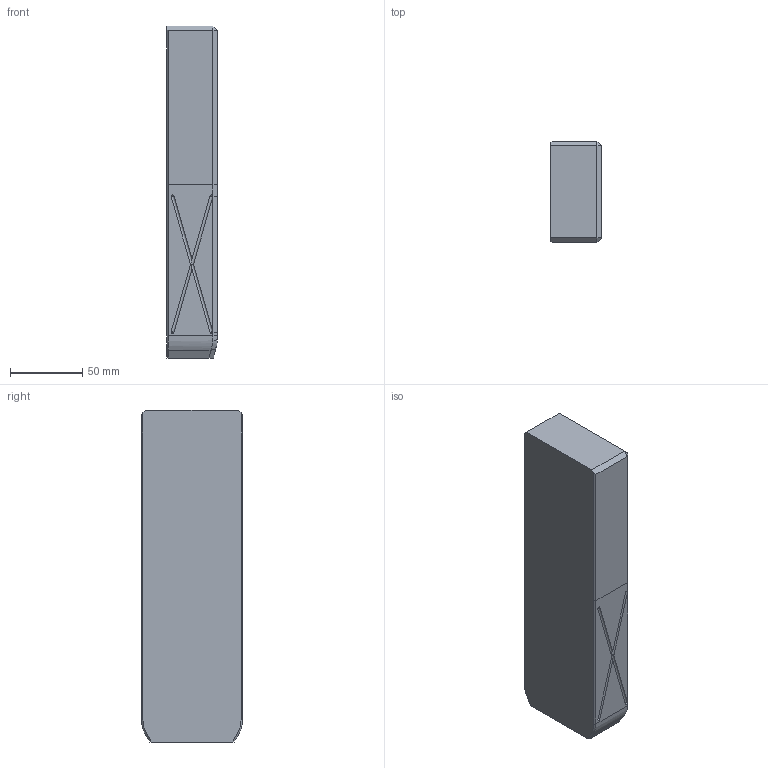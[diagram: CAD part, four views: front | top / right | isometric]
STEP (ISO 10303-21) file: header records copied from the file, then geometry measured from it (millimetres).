
FILE_DESCRIPTION((''),'2;1');
FILE_NAME('','2010-08-30T17:51:29+09:00',('misumi'),(''),'M/STEP i/f 1R2-14','CADmeister v5.1','');
FILE_SCHEMA(('AUTOMOTIVE_DESIGN'));
Length unit declared in the file: millimetre
Products named in the file (1): GW70-120-230
Bounding box: 35 x 70 x 230 mm (x, y, z)
Volume: 556590.9 mm3; surface area: 51937.7 mm2
Topology: 1 solids, 1 shells, 70 faces, 190 edges, 111 vertices
Faces by surface type: plane 35, cylinder 15, revolution 12, bspline 6, cone 2
Entity records: 3336 total; most frequent: CARTESIAN_POINT 798, ORIENTED_EDGE 356, DIRECTION 330, COLOUR_RGB 193, CURVE_STYLE 186, PRESENTATION_STYLE_ASSIGNMENT 185, OVER_RIDING_STYLED_ITEM 184, EDGE_CURVE 178
